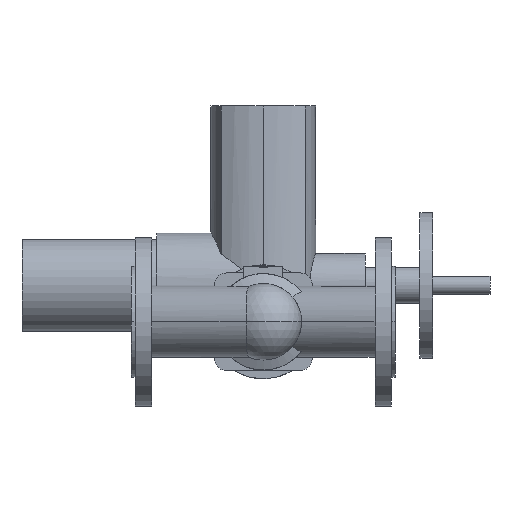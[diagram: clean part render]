
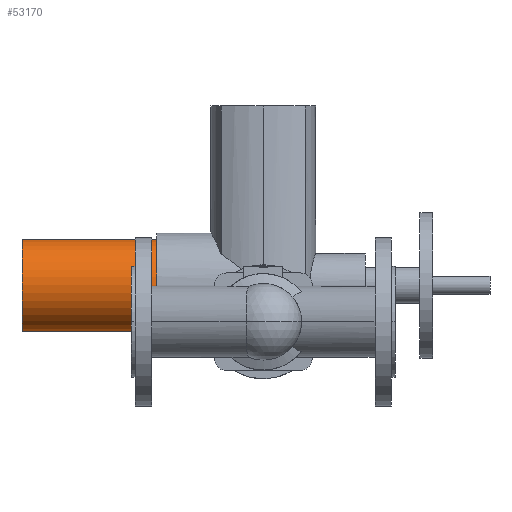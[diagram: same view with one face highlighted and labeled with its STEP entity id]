
A CAD part, front view. The second image highlights one B-rep face of the part: STEP entity #53170.
In plain terms, the highlighted cylindrical face has radius 50.5 mm (diameter 101 mm), a partial arc.
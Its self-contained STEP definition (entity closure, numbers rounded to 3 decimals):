
#52620=CARTESIAN_POINT('',(-46.,670.5,40.));
#52630=DIRECTION('',(1.,0.,0.));
#52640=DIRECTION('',(0.,0.,-1.));
#52650=AXIS2_PLACEMENT_3D('',#52620,#52630,#52640);
#52660=CYLINDRICAL_SURFACE('',#52650,50.5);
#52670=CARTESIAN_POINT('',(-46.,670.5,90.5));
#52680=DIRECTION('',(1.,0.,0.));
#52690=VECTOR('',#52680,1.);
#52700=LINE('',#52670,#52690);
#52710=CARTESIAN_POINT('',(-120.,670.5,90.5));
#52720=VERTEX_POINT('',#52710);
#52730=CARTESIAN_POINT('',(28.,670.5,90.5));
#52740=VERTEX_POINT('',#52730);
#52750=SURFACE_CURVE('',#52700,(#52660,#52660),.CURVE_3D.);
#52760=EDGE_CURVE('',#52720,#52740,#52750,.T.);
#52770=ORIENTED_EDGE('',*,*,#52760,.F.);
#52780=CARTESIAN_POINT('',(28.,670.5,40.));
#52790=DIRECTION('',(-1.,0.,0.));
#52800=DIRECTION('',(0.,0.,-1.));
#52810=AXIS2_PLACEMENT_3D('',#52780,#52790,#52800);
#52820=CIRCLE('',#52810,50.5);
#52830=CARTESIAN_POINT('',(28.,670.5,-10.5));
#52840=VERTEX_POINT('',#52830);
#52850=CARTESIAN_POINT('',(28.,670.5,-14.));
#52860=DIRECTION('',(-1.,0.,0.));
#52870=DIRECTION('',(0.,0.,-1.));
#52880=AXIS2_PLACEMENT_3D('',#52850,#52860,#52870);
#52890=PLANE('',#52880);
#52900=SURFACE_CURVE('',#52820,(#52660,#52890),.CURVE_3D.);
#52910=EDGE_CURVE('',#52840,#52740,#52900,.T.);
#52920=ORIENTED_EDGE('',*,*,#52910,.T.);
#52930=CARTESIAN_POINT('',(-46.,670.5,-10.5));
#52940=DIRECTION('',(1.,0.,0.));
#52950=VECTOR('',#52940,1.);
#52960=LINE('',#52930,#52950);
#52970=CARTESIAN_POINT('',(-120.,670.5,-10.5));
#52980=VERTEX_POINT('',#52970);
#52990=SURFACE_CURVE('',#52960,(#52660,#52660),.CURVE_3D.);
#53000=EDGE_CURVE('',#52980,#52840,#52990,.T.);
#53010=ORIENTED_EDGE('',*,*,#53000,.T.);
#53020=CARTESIAN_POINT('',(-120.,670.5,40.));
#53030=DIRECTION('',(-1.,0.,0.));
#53040=DIRECTION('',(0.,0.,-1.));
#53050=AXIS2_PLACEMENT_3D('',#53020,#53030,#53040);
#53060=CIRCLE('',#53050,50.5);
#53070=CARTESIAN_POINT('',(-120.,670.5,14.75));
#53080=DIRECTION('',(-1.,0.,0.));
#53090=DIRECTION('',(0.,0.,-1.));
#53100=AXIS2_PLACEMENT_3D('',#53070,#53080,#53090);
#53110=PLANE('',#53100);
#53120=SURFACE_CURVE('',#53060,(#52660,#53110),.CURVE_3D.);
#53130=EDGE_CURVE('',#52980,#52720,#53120,.T.);
#53140=ORIENTED_EDGE('',*,*,#53130,.F.);
#53150=EDGE_LOOP('',(#53140,#53010,#52920,#52770));
#53160=FACE_OUTER_BOUND('',#53150,.T.);
#53170=ADVANCED_FACE('',(#53160),#52660,.T.);
